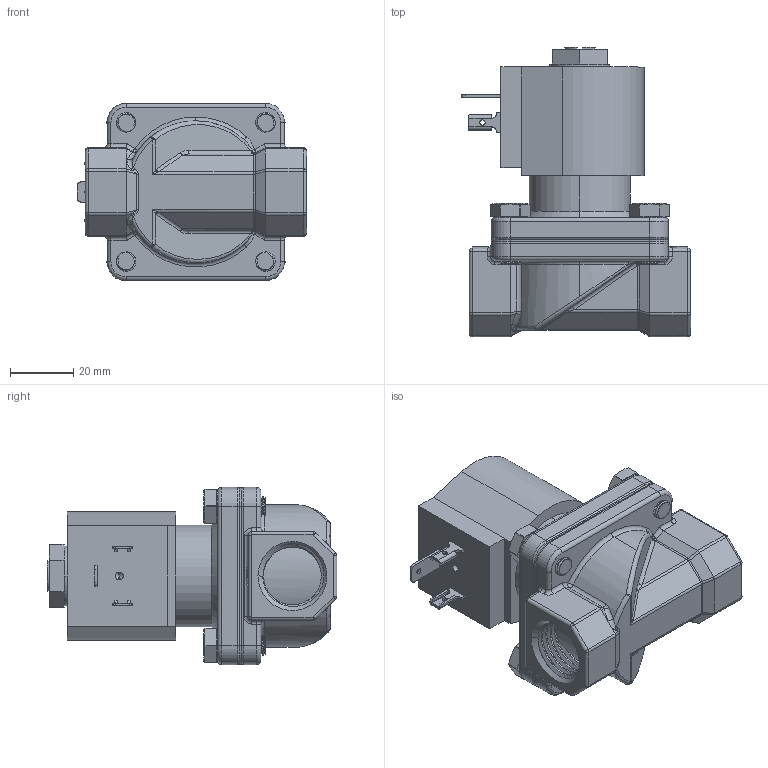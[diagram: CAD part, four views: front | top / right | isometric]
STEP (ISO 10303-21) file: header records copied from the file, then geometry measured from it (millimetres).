
FILE_DESCRIPTION (( 'STEP AP203' ), '1' );
FILE_NAME ('S211Y_D.STEP', '2023-03-10T20:09:14', ( '' ), ( '' ), 'SwSTEP 2.0', 'SolidWorks 2023', '' );
FILE_SCHEMA (( 'CONFIG_CONTROL_DESIGN' ));
Products named in the file (1): S211Y_D
Bounding box: 72.42 x 91.47 x 56.01 mm (x, y, z)
Volume: 150148.1 mm3; surface area: 25781.9 mm2
Topology: 1 solids, 1 shells, 560 faces, 1428 edges, 883 vertices
Faces by surface type: plane 229, cylinder 184, bspline 80, torus 41, cone 18, sphere 8
Entity records: 34723 total; most frequent: CARTESIAN_POINT 22128, ORIENTED_EDGE 2836, DIRECTION 2373, EDGE_CURVE 1418, VERTEX_POINT 883, AXIS2_PLACEMENT_3D 849, VECTOR 675, LINE 675
